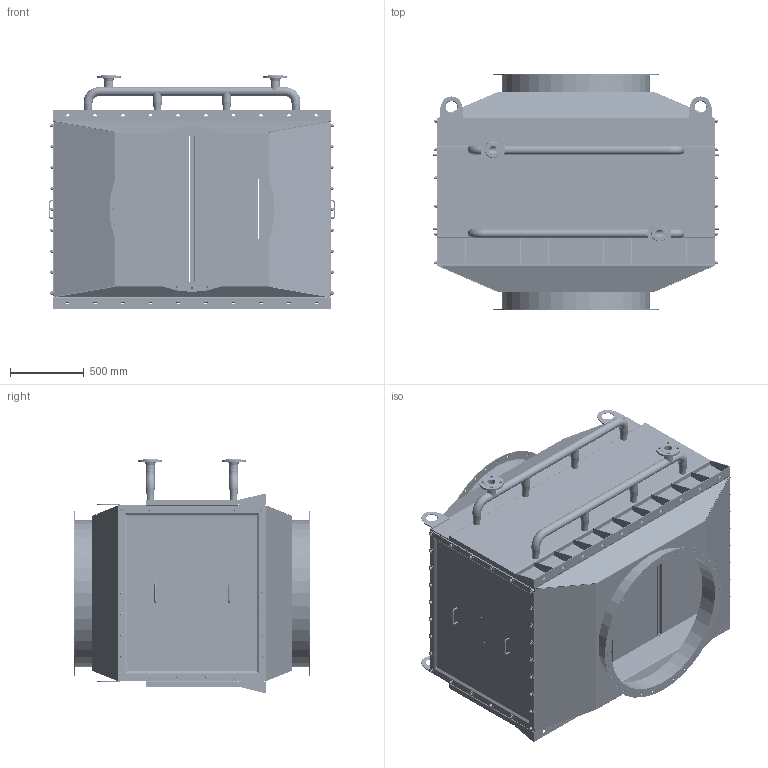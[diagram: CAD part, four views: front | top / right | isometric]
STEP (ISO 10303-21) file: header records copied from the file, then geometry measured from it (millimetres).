
FILE_DESCRIPTION (( 'STEP AP203' ), '1' );
FILE_NAME ('FW-1000-X4.STEP', '2024-12-19T11:42:41', ( '' ), ( '' ), 'SwSTEP 2.0', 'SolidWorks 2016', '' );
FILE_SCHEMA (( 'CONFIG_CONTROL_DESIGN' ));
Length unit declared in the file: millimetre
Products named in the file (33): F.331.01 - FERCHER Abgas Norm-Flansch_F.331.01.DN1000 - FERCHER Abgas Norm-Flansch DN1000; Plakette KLEIN - mit Schrauben_N.012.01 - FERCHER Plakette Klein; F.354.Z02 - Gehäuse Teil 1 Gesamt_F.351.Z02A - Geh„use Teil 1A Gesamt; N.001.DIN2633 - Vorschweißflansch DIN2633 PN16_DIN2633.DN50 - Vorschweiáflansch DIN2633 DN50 (2 Zoll); F.354.E10 - Rohrbogen_F.354.E10B - Rohrbogen 2 Zoll; DIN934 - Sechskantmutter_DIN934.M12; F.354.E07 - Abdeckung_F.354.E07 - Abdeckung; F.354.E11 - Reduzierst點k_F.354.E11B - Reduzierst乧k B; N.014.04 - Edelstahl Handgriff_N.014.04A - Edelstahl Handgriff; F.354.E02-E03 - Gehäuse Teil 2-3_F.354.E02C - Geh„use Teil 2C; DIN933 - Sechskantschraube mit Gewinde bis unter Kopf_DIN933.M5L16; F.354.Z03 - Verteiler-Rohr_F.354.Z03C - Verteilerrohr C; F.354.E06 - Leitblech_F.354.E06 - Leitblech; F.354.E09 - Gerades Rohr_F.354.E09B - Gerades Rohr B; F.354.E05 - Anschlussrohr Abgas_F.354.E05B - Anschlussrohr Abgas DN1000; F.354.E08 - T-St點k_F.354.E08A - T-St乧k 2 Zoll; F.354.E01 - Gehäuse Teil 1_F.354.E01 - Geh„use Teil 1; F.350 - Block 01_F.350 - Block 01 - FW-1000; F.354.E09 - Gerades Rohr_F.354.E09C - Gerades Rohr C; FW-1000-X4; F.354.E11 - Reduzierst點k_F.354.E11A - Reduzierst乧k A; F.354.E12 - Ösenwinkel_F.354.E12 - ™senwinkel; F.354.E04 - Versteifungs-Rippe_F.354.E04A - Versteifungs-Rippe A; N.014.04 - Edelstahl Handgriff verschraubt_N.014.04 - Edelstahl Handgriff verschraubt; DIN9021 - Unterlegscheibe Groß_DIN9021.M12 - Scheibe Groá; F.354.E09 - Gerades Rohr_F.354.E09E - Gerades Rohr E; N.012.01 - FERCHER Plakette Klein_N.012.01 - FERCHER Schild Klein; N.014.04 - Scheibe; DIN933 - Sechskantschraube mit Gewinde bis unter Kopf_DIN933.M12L30; F.354.Z05 - Abdeckung Gesamt_F.354.Z05 - Abdeckung Gesamt; F.354.E14-15 - Statik-Winkel_F.354.E14C - Statik-Winkel 1C; F.354.D01 - Dichtung Abdeckung_F.354.D01 - Dichtung Abdeckung; F.354.E02-E03 - Gehäuse Teil 2-3_F.354.E03C - Geh„use Teil 3C
Assembly tree (154 placements, depth 4):
  FW-1000-X4
    F.354.Z02 - Gehäuse Teil 1 Gesamt_F.351.Z02A - Geh„use Teil 1A Gesamt  x2
      F.354.E01 - Gehäuse Teil 1_F.354.E01 - Geh„use Teil 1
      DIN933 - Sechskantschraube mit Gewinde bis unter Kopf_DIN933.M12L30
    F.354.E02-E03 - Gehäuse Teil 2-3_F.354.E02C - Geh„use Teil 2C
    F.354.E05 - Anschlussrohr Abgas_F.354.E05B - Anschlussrohr Abgas DN1000  x2
    F.331.01 - FERCHER Abgas Norm-Flansch_F.331.01.DN1000 - FERCHER Abgas Norm-Flansch DN1000  x2
    F.354.D01 - Dichtung Abdeckung_F.354.D01 - Dichtung Abdeckung  x2
    F.354.Z05 - Abdeckung Gesamt_F.354.Z05 - Abdeckung Gesamt  x2
      F.354.E07 - Abdeckung_F.354.E07 - Abdeckung
      Plakette KLEIN - mit Schrauben_N.012.01 - FERCHER Plakette Klein
        N.012.01 - FERCHER Plakette Klein_N.012.01 - FERCHER Schild Klein
      N.014.04 - Edelstahl Handgriff verschraubt_N.014.04 - Edelstahl Handgriff verschraubt
        N.014.04 - Edelstahl Handgriff_N.014.04A - Edelstahl Handgriff
        N.014.04 - Scheibe  x2
        DIN933 - Sechskantschraube mit Gewinde bis unter Kopf_DIN933.M5L16  x2
      DIN934 - Sechskantmutter_DIN934.M12
      DIN9021 - Unterlegscheibe Groß_DIN9021.M12 - Scheibe Groá
    F.354.E02-E03 - Gehäuse Teil 2-3_F.354.E03C - Geh„use Teil 3C
    F.354.E14-15 - Statik-Winkel_F.354.E14C - Statik-Winkel 1C  x2
    F.354.E04 - Versteifungs-Rippe_F.354.E04A - Versteifungs-Rippe A  x22
    F.354.Z03 - Verteiler-Rohr_F.354.Z03C - Verteilerrohr C  x2
      F.354.E08 - T-St點k_F.354.E08A - T-St乧k 2 Zoll
      F.354.E09 - Gerades Rohr_F.354.E09B - Gerades Rohr B
      F.354.E09 - Gerades Rohr_F.354.E09E - Gerades Rohr E
      F.354.E11 - Reduzierst點k_F.354.E11A - Reduzierst乧k A
      F.354.E10 - Rohrbogen_F.354.E10B - Rohrbogen 2 Zoll
      F.354.E11 - Reduzierst點k_F.354.E11B - Reduzierst乧k B
      N.001.DIN2633 - Vorschweißflansch DIN2633 PN16_DIN2633.DN50 - Vorschweiáflansch DIN2633 DN50 (2 Zoll)
      F.354.E09 - Gerades Rohr_F.354.E09C - Gerades Rohr C
    F.354.E06 - Leitblech_F.354.E06 - Leitblech  x6
    F.350 - Block 01_F.350 - Block 01 - FW-1000  x4
    F.354.E12 - Ösenwinkel_F.354.E12 - ™senwinkel  x4
Bounding box: 1946.43 x 1600 x 1582 mm (x, y, z)
Volume: 1332362506.1 mm3; surface area: 36213655.4 mm2
Topology: 254 solids, 254 shells, 5068 faces, 12410 edges, 7884 vertices
Faces by surface type: cylinder 2552, plane 2228, cone 192, bspline 64, torus 32
Entity records: 34080 total; most frequent: CARTESIAN_POINT 5768, DIRECTION 4801, ORIENTED_EDGE 4202, EDGE_CURVE 2101, AXIS2_PLACEMENT_3D 1863, VERTEX_POINT 1326, EDGE_LOOP 1143, VECTOR 1075
